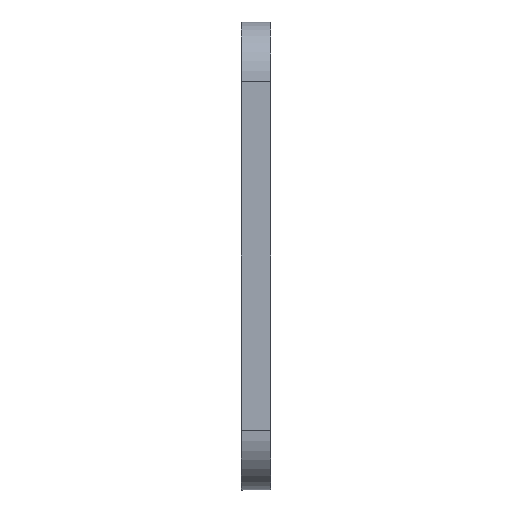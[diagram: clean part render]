
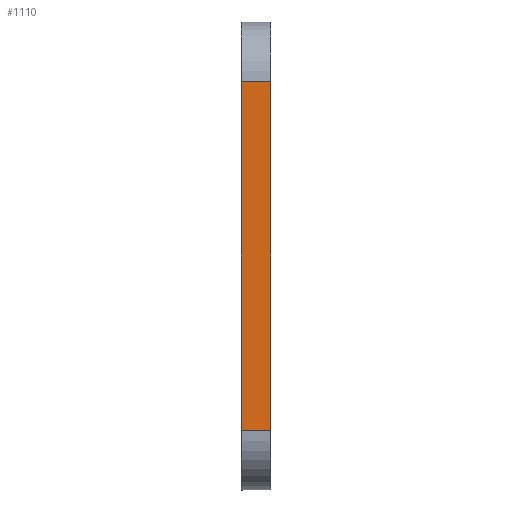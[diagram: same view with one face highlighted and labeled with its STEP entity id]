
A CAD part, front view. The second image highlights one B-rep face of the part: STEP entity #1110.
In plain terms, the highlighted planar face has unit normal (0, -1, 0).
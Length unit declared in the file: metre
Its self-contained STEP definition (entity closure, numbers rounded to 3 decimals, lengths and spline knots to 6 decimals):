
#33=LINE('',#1732,#129);
#43=LINE('',#1764,#139);
#44=LINE('',#1766,#140);
#45=LINE('',#1768,#141);
#129=VECTOR('',#1377,1.);
#139=VECTOR('',#1409,1.);
#140=VECTOR('',#1412,1.);
#141=VECTOR('',#1413,1.);
#207=PLANE('',#1215);
#307=ORIENTED_EDGE('',*,*,#613,.T.);
#308=ORIENTED_EDGE('',*,*,#612,.T.);
#309=ORIENTED_EDGE('',*,*,#596,.F.);
#310=ORIENTED_EDGE('',*,*,#614,.F.);
#596=EDGE_CURVE('',#754,#755,#33,.T.);
#612=EDGE_CURVE('',#765,#755,#43,.T.);
#613=EDGE_CURVE('',#766,#765,#44,.T.);
#614=EDGE_CURVE('',#766,#754,#45,.T.);
#754=VERTEX_POINT('',#1731);
#755=VERTEX_POINT('',#1733);
#765=VERTEX_POINT('',#1763);
#766=VERTEX_POINT('',#1767);
#901=EDGE_LOOP('',(#307,#308,#309,#310));
#999=FACE_BOUND('',#901,.T.);
#1110=ADVANCED_FACE('',(#999),#207,.T.);
#1215=AXIS2_PLACEMENT_3D('',#1765,#1410,#1411);
#1377=DIRECTION('',(0.,0.,-1.));
#1409=DIRECTION('',(1.,0.,0.));
#1410=DIRECTION('',(0.,-1.,0.));
#1411=DIRECTION('',(0.,0.,-1.));
#1412=DIRECTION('',(0.,0.,-1.));
#1413=DIRECTION('',(1.,0.,0.));
#1731=CARTESIAN_POINT('',(-0.022677,-0.019769,0.009244));
#1732=CARTESIAN_POINT('',(-0.022677,-0.019769,0.009244));
#1733=CARTESIAN_POINT('',(-0.022677,-0.019769,-0.060646));
#1763=CARTESIAN_POINT('',(-0.028677,-0.019769,-0.060646));
#1764=CARTESIAN_POINT('',(-0.028677,-0.019769,-0.060646));
#1765=CARTESIAN_POINT('',(-0.028677,-0.019769,0.009244));
#1766=CARTESIAN_POINT('',(-0.028677,-0.019769,0.009244));
#1767=CARTESIAN_POINT('',(-0.028677,-0.019769,0.009244));
#1768=CARTESIAN_POINT('',(-0.028677,-0.019769,0.009244));
